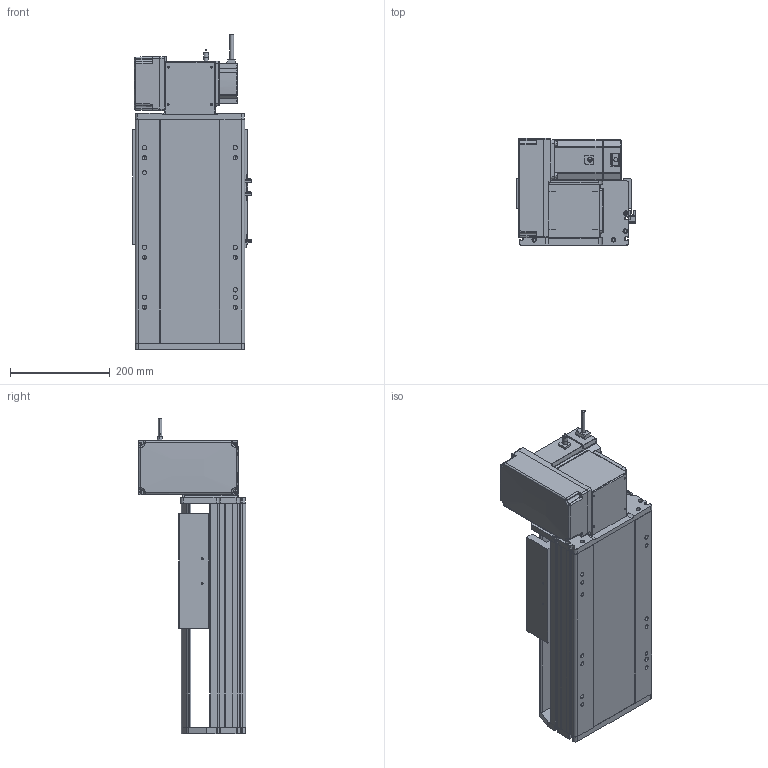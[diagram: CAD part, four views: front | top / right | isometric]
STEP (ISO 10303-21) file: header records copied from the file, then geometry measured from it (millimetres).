
FILE_DESCRIPTION (( 'STEP AP214' ), '1' );
FILE_NAME ('RTB22S-XX-100-LW-M75-C4.STEP', '2025-12-12T05:49:45', ( '' ), ( '' ), 'SwSTEP 2.0', 'SolidWorks 2018', '' );
FILE_SCHEMA (( 'AUTOMOTIVE_DESIGN' ));
Length unit declared in the file: millimetre
Products named in the file (14): 750W萇儂^RTB22S-XX-XX-LW-M75-C4; RTB22S-GY-014--々湍釱^RTB22S-LW-々湍釱蚾饜_RTB22S-XX-XX-LW-M75-C4; RTB22S-LW-々湍釱蚾饜^RTB22S-XX-XX-LW-M75-C4; RTH22-GY-013外置感应片^RTB22S-XX-XX-LW-M75-C4; RTB22S-L-004賑釱^RTB22S-XX-XX-LW-M75-C4; OMRON EE-SX672 传感器^RTB22S-XX-XX-LW-M75-C4; RTB22S-GY-001耜裔^RTB22S-XX-XX-LW-M75-C4; RTB22S-GY-018P^RTB22S-LW-々湍釱蚾饜_RTB22S-XX-XX-LW-M75-C4; RTB22S-GY-008-M75--萇儂啣^RTB22S-LW-々湍釱蚾饜_RTB22S-XX-XX-LW-M75-C4; RTB22S-GY-005P^RTB22S-LW-々湍釱蚾饜_RTB22S-XX-XX-LW-M75-C4; RTB22S-GY-007奻裔^RTB22S-XX-XX-LW-M75-C4; RTB22S-GY-017P^RTB22S-LW-々湍釱蚾饜_RTB22S-XX-XX-LW-M75-C4; RTB22S-L-011菁釱^RTB22S-XX-XX-LW-M75-C4; RTB22S-XX-100-LW-M75-C4
Assembly tree (16 placements, depth 3):
  RTB22S-XX-100-LW-M75-C4
    RTB22S-L-011菁釱^RTB22S-XX-XX-LW-M75-C4
    RTB22S-GY-001耜裔^RTB22S-XX-XX-LW-M75-C4
    750W萇儂^RTB22S-XX-XX-LW-M75-C4
    RTB22S-GY-007奻裔^RTB22S-XX-XX-LW-M75-C4
    RTB22S-L-004賑釱^RTB22S-XX-XX-LW-M75-C4
    RTH22-GY-013外置感应片^RTB22S-XX-XX-LW-M75-C4
    OMRON EE-SX672 传感器^RTB22S-XX-XX-LW-M75-C4  x3
    RTB22S-LW-々湍釱蚾饜^RTB22S-XX-XX-LW-M75-C4
      RTB22S-GY-014--々湍釱^RTB22S-LW-々湍釱蚾饜_RTB22S-XX-XX-LW-M75-C4
      RTB22S-GY-017P^RTB22S-LW-々湍釱蚾饜_RTB22S-XX-XX-LW-M75-C4  x2
      RTB22S-GY-005P^RTB22S-LW-々湍釱蚾饜_RTB22S-XX-XX-LW-M75-C4
      RTB22S-GY-008-M75--萇儂啣^RTB22S-LW-々湍釱蚾饜_RTB22S-XX-XX-LW-M75-C4
      RTB22S-GY-018P^RTB22S-LW-々湍釱蚾饜_RTB22S-XX-XX-LW-M75-C4
Bounding box: 238.5 x 215.5 x 632.2 mm (x, y, z)
Volume: 10803092.6 mm3; surface area: 1168160.5 mm2
Topology: 15 solids, 15 shells, 1893 faces, 5136 edges, 3302 vertices
Faces by surface type: plane 905, cylinder 562, bspline 296, cone 118, sphere 8, torus 4
Entity records: 49478 total; most frequent: CARTESIAN_POINT 14432, ORIENTED_EDGE 7100, DIRECTION 6744, EDGE_CURVE 3550, AXIS2_PLACEMENT_3D 2346, VERTEX_POINT 2306, VECTOR 2052, LINE 2052
